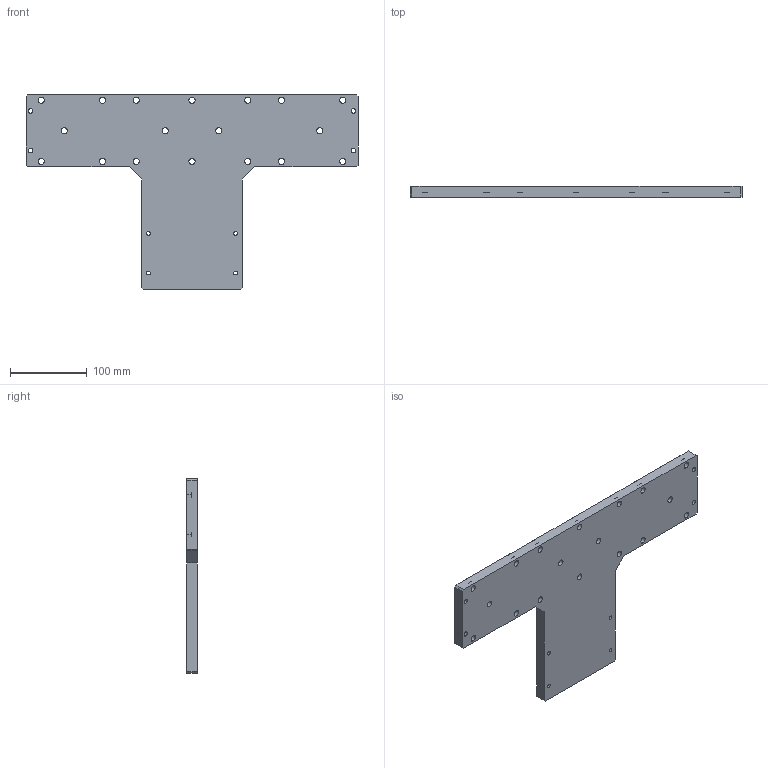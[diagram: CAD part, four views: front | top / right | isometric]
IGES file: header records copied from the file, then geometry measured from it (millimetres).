
Start section:  PTC IGES file: k100-k100l-ft.igs
Global section: file name: k100-k100l-ft.igs; native system: Pro/ENGINEER by Parametric Technology Corporation; preprocessor: 2008230; author: Owner; organization: Unknown; date: 20121212.111919; units: millimetre
Bounding box: 434 x 14 x 254 mm (x, y, z)
Surface area: 152390.2 mm2 (no closed solid volume)
Topology: 0 solids, 0 shells, 136 faces, 716 edges, 709 vertices
Faces by surface type: revolution 96, bspline 40
